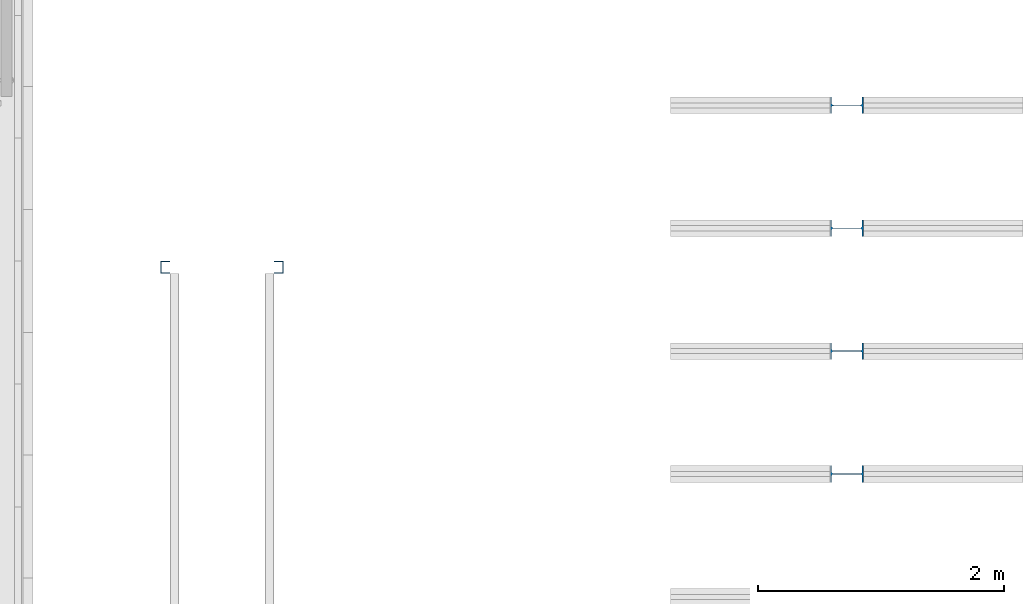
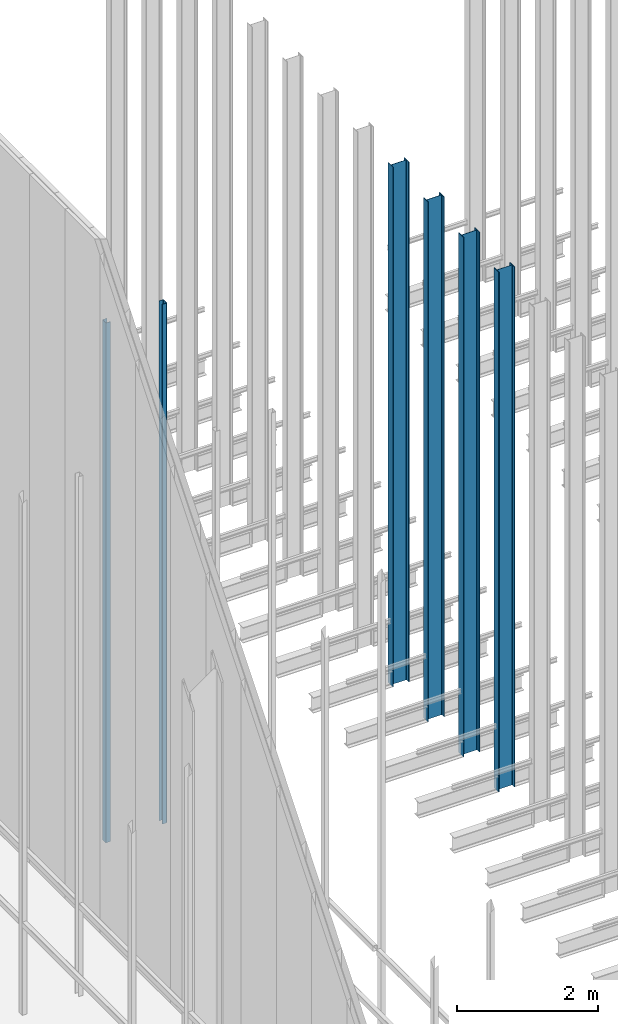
# One storey, part 53 of 302: 6 columns.
"""IFC2X3 building model written with IfcOpenShell, lengths in metres."""

from ifc_helpers import new_model, entity, si_unit, converted_unit, derived_unit, direction, frame, frame_2d, origin, place, context, subcontext, project, spatial, polyline, circle_curve, parameter, trimmed, segment, composite_curve, outline, extrude, source, transform, mapped, material, type_object, type_shapes, element, save


model = new_model("IFC2X3")

# Units and contexts
model_context = context("Model", 3, precision=1e-05, world=origin(), true_north=direction((6.12303176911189e-17, 1.0)))
body_context = subcontext(model_context, "Body", "Model", "MODEL_VIEW")
ifc_project = project(units=[si_unit("LENGTHUNIT", "METRE"), si_unit("AREAUNIT", "SQUARE_METRE"), si_unit("VOLUMEUNIT", "CUBIC_METRE"), converted_unit("PLANEANGLEUNIT", "DEGREE", entity("IfcRatioMeasure", 0.0174532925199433), si_unit("PLANEANGLEUNIT", "RADIAN"), dimensions=[0, 0, 0, 0, 0, 0, 0]), si_unit("MASSUNIT", "GRAM", prefix="KILO"), derived_unit("MASSDENSITYUNIT", [(si_unit("MASSUNIT", "GRAM", prefix="KILO"), 1), (si_unit("LENGTHUNIT", "METRE"), -3)]), derived_unit("MOMENTOFINERTIAUNIT", [(si_unit("LENGTHUNIT", "METRE"), 4)]), si_unit("TIMEUNIT", "SECOND"), si_unit("FREQUENCYUNIT", "HERTZ"), si_unit("THERMODYNAMICTEMPERATUREUNIT", "DEGREE_CELSIUS"), derived_unit("THERMALTRANSMITTANCEUNIT", [(si_unit("MASSUNIT", "GRAM", prefix="KILO"), 1), (si_unit("THERMODYNAMICTEMPERATUREUNIT", "KELVIN"), -1), (si_unit("TIMEUNIT", "SECOND"), -3)]), derived_unit("VOLUMETRICFLOWRATEUNIT", [(si_unit("LENGTHUNIT", "METRE"), 3), (si_unit("TIMEUNIT", "SECOND"), -1)]), si_unit("ELECTRICCURRENTUNIT", "AMPERE"), si_unit("ELECTRICVOLTAGEUNIT", "VOLT"), si_unit("POWERUNIT", "WATT"), si_unit("FORCEUNIT", "NEWTON", prefix="KILO"), si_unit("ILLUMINANCEUNIT", "LUX"), si_unit("LUMINOUSFLUXUNIT", "LUMEN"), si_unit("LUMINOUSINTENSITYUNIT", "CANDELA"), derived_unit("USERDEFINED", [(si_unit("MASSUNIT", "GRAM", prefix="KILO"), -1), (si_unit("LENGTHUNIT", "METRE"), -2), (si_unit("TIMEUNIT", "SECOND"), 3), (si_unit("LUMINOUSFLUXUNIT", "LUMEN"), 1)]), derived_unit("LINEARVELOCITYUNIT", [(si_unit("LENGTHUNIT", "METRE"), 1), (si_unit("TIMEUNIT", "SECOND"), -1)]), si_unit("PRESSUREUNIT", "PASCAL"), derived_unit("USERDEFINED", [(si_unit("LENGTHUNIT", "METRE"), -2), (si_unit("MASSUNIT", "GRAM", prefix="KILO"), 1), (si_unit("TIMEUNIT", "SECOND"), -2)]), derived_unit("LINEARFORCEUNIT", [(si_unit("MASSUNIT", "GRAM", prefix="KILO"), 1), (si_unit("LENGTHUNIT", "METRE"), 1), (si_unit("TIMEUNIT", "SECOND"), -2), (si_unit("LENGTHUNIT", "METRE"), -1)]), derived_unit("PLANARFORCEUNIT", [(si_unit("MASSUNIT", "GRAM", prefix="KILO"), 1), (si_unit("LENGTHUNIT", "METRE"), 1), (si_unit("TIMEUNIT", "SECOND"), -2), (si_unit("LENGTHUNIT", "METRE"), -2)])], contexts=[model_context])

# Site, building, storey
site_placement = place(None, origin())
site = spatial("IfcSite", under=ifc_project, at=site_placement, Name="Default", CompositionType="ELEMENT")
building_placement = place(site_placement, origin())
building = spatial("IfcBuilding", under=site, at=building_placement, CompositionType="ELEMENT")
storey_placement = place(building_placement, frame((0.0, 0.0, -1.3)))
storey = spatial("IfcBuildingStorey", under=building, at=storey_placement, Name="00_EG", CompositionType="ELEMENT", Elevation=-1.3)

# Columns
ifc_material = material(Name="Metall - Baustahl S235")
column_type_1 = type_object("IfcColumnType", Name="Leichter Stahl Schlossschrauben Stütze:C 100", PredefinedType="COLUMN", material=ifc_material)
shared_shape_1 = source(origin(), body_context, "Body", "SweptSolid", [
    extrude(outline(composite_curve([segment(polyline([(-0.0469749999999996, -0.0499999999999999), (0.0214500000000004, -0.0499999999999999)]), True, "CONTINUOUS"), segment(trimmed(circle_curve(frame_2d((0.0214500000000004, -0.0434249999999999), x_axis=(0.0, -1.0)), 0.00657500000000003), [parameter(0.0)], [parameter(89.9999999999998)], True, "PARAMETER"), True, "CONTINUOUS"), segment(polyline([(0.0280250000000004, -0.0434249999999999), (0.0280250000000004, 0.0434250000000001)]), True, "CONTINUOUS"), segment(trimmed(circle_curve(frame_2d((0.0214500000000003, 0.0434250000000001), x_axis=(1.0, 0.0)), 0.0065750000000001), [parameter(0.0)], [parameter(89.9999999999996)], True, "PARAMETER"), True, "CONTINUOUS"), segment(polyline([(0.0214500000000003, 0.0500000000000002), (-0.0469750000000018, 0.0500000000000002)]), True, "CONTINUOUS"), segment(polyline([(-0.0469750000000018, 0.0500000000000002), (-0.0469750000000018, 0.0450000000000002)]), True, "CONTINUOUS"), segment(polyline([(-0.0469750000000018, 0.0450000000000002), (0.0214500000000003, 0.0450000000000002)]), True, "CONTINUOUS"), segment(trimmed(circle_curve(frame_2d((0.0214500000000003, 0.0434249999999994), x_axis=(0.0, 1.0)), 0.00157500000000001), [parameter(269.999999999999)], [parameter(0.0)], True, "PARAMETER"), False, "CONTINUOUS"), segment(polyline([(0.0230250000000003, 0.0434249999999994), (0.0230250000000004, -0.0434249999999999)]), True, "CONTINUOUS"), segment(trimmed(circle_curve(frame_2d((0.0214500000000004, -0.0434249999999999), x_axis=(1.0, 0.0)), 0.00157500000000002), [parameter(270.0)], [parameter(0.0)], True, "PARAMETER"), False, "CONTINUOUS"), segment(polyline([(0.0214500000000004, -0.0449999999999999), (-0.0469749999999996, -0.0449999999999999)]), True, "CONTINUOUS"), segment(polyline([(-0.0469749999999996, -0.0449999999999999), (-0.0469749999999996, -0.0499999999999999)]), True, "CONTINUOUS")], self_intersect=False)), frame((0.0499999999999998, 0.0280250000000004, -0.0300000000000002), z_axis=(0.0, 0.0, 1.0), x_axis=(0.0, -1.0, 0.0)), (0.0, 0.0, 1.0), 9.0),
])
type_shapes(column_type_1, [shared_shape_1])
column_1_placement = place(storey_placement, frame((-176.230111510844, 45.748088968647, 1.3), z_axis=(0.0, 0.0, 1.0), x_axis=(0.0, -1.0, 0.0)))
element("IfcColumn", 1, at=column_1_placement, inside=storey, type_object=column_type_1, material=ifc_material, Name="Leichter Stahl Schlossschrauben Stütze:C 100", ObjectType="Leichter Stahl Schlossschrauben Stütze:C 100", context=body_context, shape_type="MappedRepresentation", body=[
    mapped(shared_shape_1, transform((0.0, 0.0, 0.0), scale=1.0)),
])
column_type_2 = type_object("IfcColumnType", Name="Leichter Stahl Schlossschrauben Stütze:C 100", PredefinedType="COLUMN", material=ifc_material)
shared_shape_2 = source(origin(), body_context, "Body", "SweptSolid", [
    extrude(outline(composite_curve([segment(polyline([(-0.0214500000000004, -0.0499999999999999), (0.0469749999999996, -0.0499999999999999)]), True, "CONTINUOUS"), segment(polyline([(0.0469749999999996, -0.0499999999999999), (0.0469749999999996, -0.0449999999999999)]), True, "CONTINUOUS"), segment(polyline([(0.0469749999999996, -0.0449999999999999), (-0.0214500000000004, -0.045)]), True, "CONTINUOUS"), segment(trimmed(circle_curve(frame_2d((-0.0214500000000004, -0.043425), x_axis=(0.0, -1.0)), 0.00157500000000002), [parameter(270.0)], [parameter(0.0)], True, "PARAMETER"), False, "CONTINUOUS"), segment(polyline([(-0.0230250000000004, -0.0434249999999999), (-0.0230250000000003, 0.0434249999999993)]), True, "CONTINUOUS"), segment(trimmed(circle_curve(frame_2d((-0.0214500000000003, 0.0434249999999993), x_axis=(-1.0, 0.0)), 0.00157500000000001), [parameter(269.999999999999)], [parameter(0.0)], True, "PARAMETER"), False, "CONTINUOUS"), segment(polyline([(-0.0214500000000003, 0.0450000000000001), (0.0469750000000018, 0.0450000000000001)]), True, "CONTINUOUS"), segment(polyline([(0.0469750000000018, 0.0450000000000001), (0.0469750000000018, 0.0500000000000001)]), True, "CONTINUOUS"), segment(polyline([(0.0469750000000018, 0.0500000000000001), (-0.0214500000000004, 0.0500000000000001)]), True, "CONTINUOUS"), segment(trimmed(circle_curve(frame_2d((-0.0214500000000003, 0.043425), x_axis=(0.0, 1.0)), 0.0065750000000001), [parameter(0.0)], [parameter(89.9999999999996)], True, "PARAMETER"), True, "CONTINUOUS"), segment(polyline([(-0.0280250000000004, 0.043425), (-0.0280250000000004, -0.043425)]), True, "CONTINUOUS"), segment(trimmed(circle_curve(frame_2d((-0.0214500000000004, -0.0434249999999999), x_axis=(-1.0, 0.0)), 0.00657500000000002), [parameter(0.0)], [parameter(89.9999999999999)], True, "PARAMETER"), True, "CONTINUOUS")], self_intersect=False)), frame((0.0499999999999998, -0.0280250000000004, -0.0300000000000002), z_axis=(0.0, 0.0, 1.0), x_axis=(0.0, -1.0, 0.0)), (0.0, 0.0, 1.0), 9.0),
])
type_shapes(column_type_2, [shared_shape_2])
column_2_placement = place(storey_placement, frame((-175.230111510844, 45.748088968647, 1.3), z_axis=(0.0, 0.0, 1.0), x_axis=(0.0, -1.0, 0.0)))
element("IfcColumn", 2, at=column_2_placement, inside=storey, type_object=column_type_2, material=ifc_material, Name="Leichter Stahl Schlossschrauben Stütze:C 100", ObjectType="Leichter Stahl Schlossschrauben Stütze:C 100", context=body_context, shape_type="MappedRepresentation", body=[
    mapped(shared_shape_2, transform((0.0, 0.0, 0.0), scale=1.0)),
])
column_type_3 = type_object("IfcColumnType", Name="IPE Stütze:IPE 270", PredefinedType="COLUMN", material=ifc_material)
shared_shape_3 = source(origin(), body_context, "Body", "SweptSolid", [
    extrude(outline(composite_curve([segment(polyline([(0.1248, -0.0675), (0.135, -0.0675)]), True, "CONTINUOUS"), segment(polyline([(0.135, -0.0675), (0.135, 0.0675)]), True, "CONTINUOUS"), segment(polyline([(0.135, 0.0675), (0.1248, 0.0675)]), True, "CONTINUOUS"), segment(polyline([(0.1248, 0.0675), (0.1248, 0.0183)]), True, "CONTINUOUS"), segment(trimmed(circle_curve(frame_2d((0.1098, 0.0183), x_axis=(1.0, 0.0)), 0.015), [parameter(270.0)], [parameter(0.0)], True, "PARAMETER"), False, "CONTINUOUS"), segment(polyline([(0.1098, 0.0033), (-0.1098, 0.0033)]), True, "CONTINUOUS"), segment(trimmed(circle_curve(frame_2d((-0.1098, 0.0183), x_axis=(0.0, -1.0)), 0.015), [parameter(270.0)], [parameter(0.0)], True, "PARAMETER"), False, "CONTINUOUS"), segment(polyline([(-0.1248, 0.0183), (-0.1248, 0.0675)]), True, "CONTINUOUS"), segment(polyline([(-0.1248, 0.0675), (-0.135, 0.0675)]), True, "CONTINUOUS"), segment(polyline([(-0.135, 0.0675), (-0.135, -0.0675)]), True, "CONTINUOUS"), segment(polyline([(-0.135, -0.0675), (-0.1248, -0.0675)]), True, "CONTINUOUS"), segment(polyline([(-0.1248, -0.0675), (-0.1248, -0.0183)]), True, "CONTINUOUS"), segment(trimmed(circle_curve(frame_2d((-0.1098, -0.0183), x_axis=(-1.0, 0.0)), 0.015), [parameter(269.999999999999)], [parameter(0.0)], True, "PARAMETER"), False, "CONTINUOUS"), segment(polyline([(-0.1098, -0.0033), (0.1098, -0.0033)]), True, "CONTINUOUS"), segment(trimmed(circle_curve(frame_2d((0.1098, -0.0183), x_axis=(0.0, 1.0)), 0.015), [parameter(270.0)], [parameter(0.0)], True, "PARAMETER"), False, "CONTINUOUS"), segment(polyline([(0.1248, -0.0183), (0.1248, -0.0675)]), True, "CONTINUOUS")], self_intersect=False)), frame((0.0, 0.0, -0.0300000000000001), z_axis=(0.0, 0.0, 1.0), x_axis=(0.0, -1.0, 0.0)), (0.0, 0.0, 1.0), 9.0),
])
type_shapes(column_type_3, [shared_shape_3])
for number, where, z_axis, x_axis in (
    (3, (-170.645111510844, 47.0155889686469, 1.3), (0.0, 0.0, 1.0), (0.0, 1.0, 0.0)),
    (4, (-170.645111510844, 46.0155889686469, 1.3), (0.0, 0.0, 1.0), (0.0, 1.0, 0.0)),
    (5, (-170.645111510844, 45.0155889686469, 1.3), (0.0, 0.0, 1.0), (0.0, 1.0, 0.0)),
    (6, (-170.645111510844, 44.0155889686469, 1.3), (0.0, 0.0, 1.0), (0.0, 1.0, 0.0)),
):
    element("IfcColumn", number, at=place(storey_placement, frame(where, z_axis=z_axis, x_axis=x_axis)), inside=storey, type_object=column_type_3, material=ifc_material, Name="IPE Stütze:IPE 270", ObjectType="IPE Stütze:IPE 270", context=body_context, shape_type="MappedRepresentation", body=[
        mapped(shared_shape_3, transform((0.0, 0.0, 0.0), scale=1.0)),
    ])

save(model, "model.ifc")
